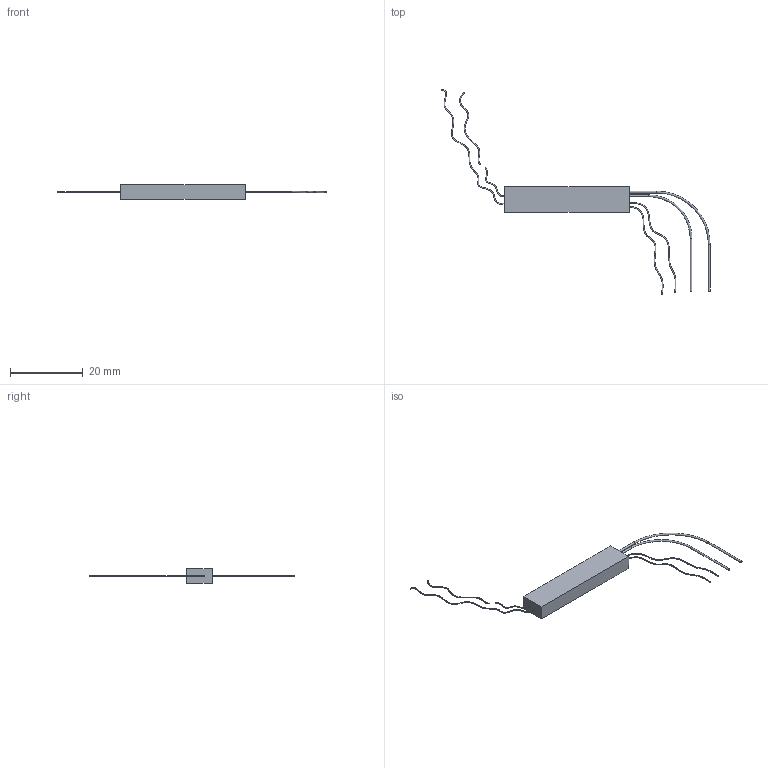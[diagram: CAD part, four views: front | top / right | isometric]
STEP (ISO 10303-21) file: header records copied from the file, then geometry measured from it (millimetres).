
FILE_DESCRIPTION(/* description */ (''),/* implementation_level */ '2;1');
FILE_NAME(/* name */ 'F:\daten\PRODUKTE\TELEMETR\SV\Mechanik\CAD\7b\SV_B7xT34xH4\SV_B7xT34xH4.stp',/* time_stamp */ '2019-08-26T15:25:09+02:00',/* author */ ('rosner'),/* organization */ (''),/* preprocessor_version */ 'ST-DEVELOPER v16.5',/* originating_system */ 'Autodesk Inventor 2017',/* authorisation */ '');
FILE_SCHEMA (('AUTOMOTIVE_DESIGN { 1 0 10303 214 3 1 1 }'));
Length unit declared in the file: millimetre
Products named in the file (1): SV_B11xT30xH8
Bounding box: 73.49 x 56.07 x 4 mm (x, y, z)
Volume: 972 mm3; surface area: 1014.9 mm2
Topology: 1 solids, 1 shells, 24 faces, 42 edges, 26 vertices
Faces by surface type: plane 12, bspline 6, cylinder 4, torus 2
Full cylindrical faces by diameter (mm): 0.5 x4
Entity records: 2414 total; most frequent: CARTESIAN_POINT 1916, DIRECTION 86, ORIENTED_EDGE 72, AXIS2_PLACEMENT_3D 37, EDGE_LOOP 36, EDGE_CURVE 36, VERTEX_POINT 26, FACE_OUTER_BOUND 24
